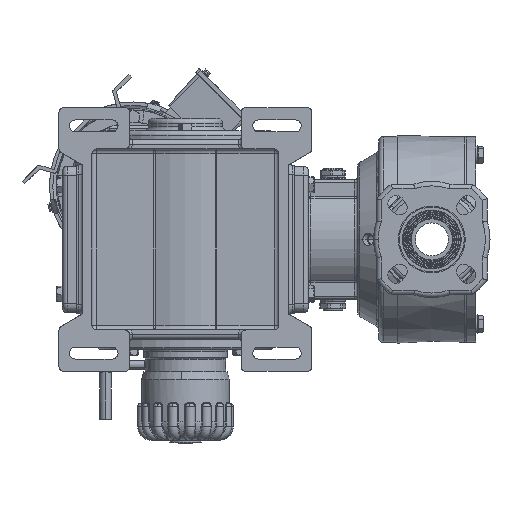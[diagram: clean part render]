
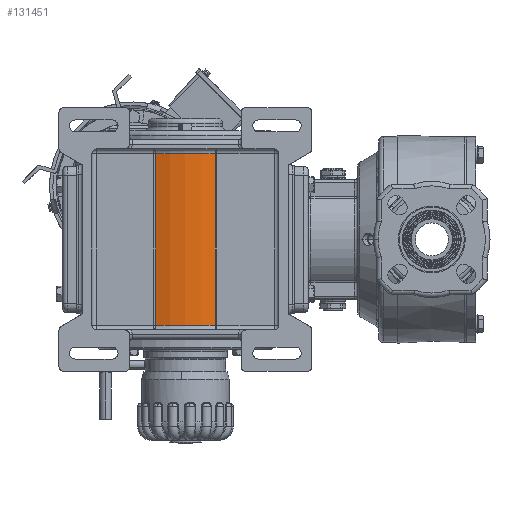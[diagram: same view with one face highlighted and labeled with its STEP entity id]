
A CAD part, front view. The second image highlights one B-rep face of the part: STEP entity #131451.
In plain terms, the highlighted cylindrical face has radius 96 mm (diameter 192 mm), a partial arc.
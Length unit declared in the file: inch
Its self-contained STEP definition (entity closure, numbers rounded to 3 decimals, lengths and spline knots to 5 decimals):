
#793 = VERTEX_POINT ( 'NONE', #119333 ) ;
#1246 = DIRECTION ( 'NONE',  ( 1., 0., 0. ) ) ;
#7520 = EDGE_CURVE ( 'NONE', #97616, #148448, #69044, .T. ) ;
#12759 = CARTESIAN_POINT ( 'NONE',  ( -11.09484, 1.23196, 8.11949 ) ) ;
#13656 = LINE ( 'NONE', #142027, #40457 ) ;
#16019 = AXIS2_PLACEMENT_3D ( 'NONE', #12759, #138876, #95034 ) ;
#23370 = CARTESIAN_POINT ( 'NONE',  ( -11.09484, 1.23196, 0.73367 ) ) ;
#25172 = LINE ( 'NONE', #105994, #125555 ) ;
#27493 = EDGE_CURVE ( 'NONE', #793, #97616, #13656, .T. ) ;
#35959 = CYLINDRICAL_SURFACE ( 'NONE', #119900, 3.77953 ) ;
#36185 = DIRECTION ( 'NONE',  ( 1., 0., 0. ) ) ;
#39648 = EDGE_LOOP ( 'NONE', ( #135431, #88580, #71690, #83220 ) ) ;
#40457 = VECTOR ( 'NONE', #84596, 39.37008 ) ;
#41568 = AXIS2_PLACEMENT_3D ( 'NONE', #23370, #114742, #36185 ) ;
#51516 = EDGE_CURVE ( 'NONE', #148448, #57178, #25172, .T. ) ;
#57178 = VERTEX_POINT ( 'NONE', #70143 ) ;
#69044 = CIRCLE ( 'NONE', #16019, 3.77953 ) ;
#70143 = CARTESIAN_POINT ( 'NONE',  ( -12.37812, -2.32304, 0.73367 ) ) ;
#71690 = ORIENTED_EDGE ( 'NONE', *, *, #51516, .T. ) ;
#76911 = CARTESIAN_POINT ( 'NONE',  ( -9.81157, -2.32304, 8.11949 ) ) ;
#82008 = DIRECTION ( 'NONE',  ( 0., 0., 1. ) ) ;
#83220 = ORIENTED_EDGE ( 'NONE', *, *, #142413, .T. ) ;
#84596 = DIRECTION ( 'NONE',  ( 0., 0., 1. ) ) ;
#88580 = ORIENTED_EDGE ( 'NONE', *, *, #7520, .T. ) ;
#95034 = DIRECTION ( 'NONE',  ( -1., 0., 0. ) ) ;
#97616 = VERTEX_POINT ( 'NONE', #76911 ) ;
#105994 = CARTESIAN_POINT ( 'NONE',  ( -12.37812, -2.32304, 0.0565 ) ) ;
#106701 = CIRCLE ( 'NONE', #41568, 3.77953 ) ;
#107666 = CARTESIAN_POINT ( 'NONE',  ( -11.09484, 1.23196, 0.0565 ) ) ;
#114742 = DIRECTION ( 'NONE',  ( 0., 0., 1. ) ) ;
#115062 = DIRECTION ( 'NONE',  ( 0., 0., -1. ) ) ;
#119333 = CARTESIAN_POINT ( 'NONE',  ( -9.81157, -2.32304, 0.73367 ) ) ;
#119900 = AXIS2_PLACEMENT_3D ( 'NONE', #107666, #82008, #1246 ) ;
#125555 = VECTOR ( 'NONE', #115062, 39.37008 ) ;
#128810 = FACE_OUTER_BOUND ( 'NONE', #39648, .T. ) ;
#131451 = ADVANCED_FACE ( 'NONE', ( #128810 ), #35959, .T. ) ;
#132110 = CARTESIAN_POINT ( 'NONE',  ( -12.37812, -2.32304, 8.11949 ) ) ;
#135431 = ORIENTED_EDGE ( 'NONE', *, *, #27493, .T. ) ;
#138876 = DIRECTION ( 'NONE',  ( 0., 0., -1. ) ) ;
#142027 = CARTESIAN_POINT ( 'NONE',  ( -9.81157, -2.32304, 0.0565 ) ) ;
#142413 = EDGE_CURVE ( 'NONE', #57178, #793, #106701, .T. ) ;
#148448 = VERTEX_POINT ( 'NONE', #132110 ) ;
